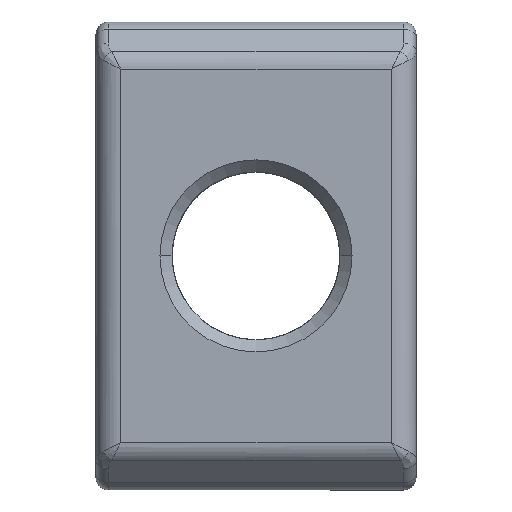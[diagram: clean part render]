
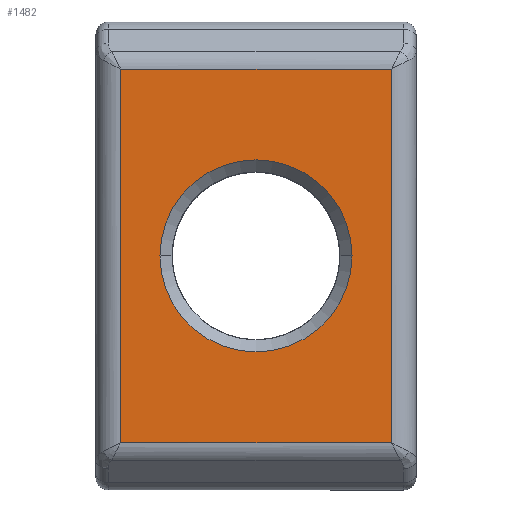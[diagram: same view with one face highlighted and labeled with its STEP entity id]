
A CAD part, top view. The second image highlights one B-rep face of the part: STEP entity #1482.
In plain terms, the highlighted planar face has unit normal (0, 0, 1).
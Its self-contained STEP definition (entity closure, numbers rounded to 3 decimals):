
#55 = DIRECTION ( 'NONE',  ( 1., 0., 0. ) ) ;
#56 = DIRECTION ( 'NONE',  ( 1., 0., 0. ) ) ;
#67 = CIRCLE ( 'NONE', #735, 3.9 ) ;
#107 = DIRECTION ( 'NONE',  ( 1., 0., 0. ) ) ;
#111 = ORIENTED_EDGE ( 'NONE', *, *, #1481, .F. ) ;
#130 = DIRECTION ( 'NONE',  ( 0., 0., -1. ) ) ;
#150 = ORIENTED_EDGE ( 'NONE', *, *, #1933, .T. ) ;
#151 = FACE_OUTER_BOUND ( 'NONE', #1407, .T. ) ;
#217 = VERTEX_POINT ( 'NONE', #1050 ) ;
#299 = CARTESIAN_POINT ( 'NONE',  ( -12.5, -0.5, 0. ) ) ;
#329 = CARTESIAN_POINT ( 'NONE',  ( -1., -1.914, 0. ) ) ;
#335 = DIRECTION ( 'NONE',  ( 1., 0., 0. ) ) ;
#340 = VECTOR ( 'NONE', #56, 1000. ) ;
#421 = DIRECTION ( 'NONE',  ( 0., 1., 0. ) ) ;
#438 = CARTESIAN_POINT ( 'NONE',  ( -10.4, -9.5, 0. ) ) ;
#491 = ORIENTED_EDGE ( 'NONE', *, *, #571, .F. ) ;
#498 = VERTEX_POINT ( 'NONE', #1752 ) ;
#511 = CARTESIAN_POINT ( 'NONE',  ( -13., -1.914, 0. ) ) ;
#525 = VERTEX_POINT ( 'NONE', #1708 ) ;
#571 = EDGE_CURVE ( 'NONE', #525, #1192, #1596, .T. ) ;
#585 = DIRECTION ( 'NONE',  ( 1., 0., 0. ) ) ;
#595 = CARTESIAN_POINT ( 'NONE',  ( -6.5, -9.5, 0. ) ) ;
#700 = AXIS2_PLACEMENT_3D ( 'NONE', #299, #1665, #335 ) ;
#703 = VECTOR ( 'NONE', #890, 1000. ) ;
#715 = CARTESIAN_POINT ( 'NONE',  ( -1., -19., 0. ) ) ;
#735 = AXIS2_PLACEMENT_3D ( 'NONE', #1422, #951, #55 ) ;
#850 = VECTOR ( 'NONE', #421, 1000. ) ;
#860 = VECTOR ( 'NONE', #107, 1000. ) ;
#890 = DIRECTION ( 'NONE',  ( 0., 1., 0. ) ) ;
#903 = VERTEX_POINT ( 'NONE', #1154 ) ;
#951 = DIRECTION ( 'NONE',  ( 0., 0., -1. ) ) ;
#1037 = CARTESIAN_POINT ( 'NONE',  ( -12., -19., 0. ) ) ;
#1042 = CIRCLE ( 'NONE', #1698, 3.9 ) ;
#1050 = CARTESIAN_POINT ( 'NONE',  ( -2.6, -9.5, 0. ) ) ;
#1128 = CARTESIAN_POINT ( 'NONE',  ( -13., -17.086, 0. ) ) ;
#1154 = CARTESIAN_POINT ( 'NONE',  ( -12., -17.086, 0. ) ) ;
#1192 = VERTEX_POINT ( 'NONE', #329 ) ;
#1264 = EDGE_CURVE ( 'NONE', #903, #498, #1400, .T. ) ;
#1279 = EDGE_LOOP ( 'NONE', ( #150, #1519 ) ) ;
#1341 = VERTEX_POINT ( 'NONE', #438 ) ;
#1400 = LINE ( 'NONE', #1128, #340 ) ;
#1407 = EDGE_LOOP ( 'NONE', ( #1709, #491, #111, #1566 ) ) ;
#1422 = CARTESIAN_POINT ( 'NONE',  ( -6.5, -9.5, 0. ) ) ;
#1436 = EDGE_CURVE ( 'NONE', #498, #1192, #1603, .T. ) ;
#1481 = EDGE_CURVE ( 'NONE', #903, #525, #1632, .T. ) ;
#1482 = ADVANCED_FACE ( 'NONE', ( #1494, #151 ), #1896, .T. ) ;
#1494 = FACE_BOUND ( 'NONE', #1279, .T. ) ;
#1519 = ORIENTED_EDGE ( 'NONE', *, *, #1803, .T. ) ;
#1566 = ORIENTED_EDGE ( 'NONE', *, *, #1264, .T. ) ;
#1596 = LINE ( 'NONE', #511, #860 ) ;
#1603 = LINE ( 'NONE', #715, #850 ) ;
#1632 = LINE ( 'NONE', #1037, #703 ) ;
#1665 = DIRECTION ( 'NONE',  ( 0., 0., 1. ) ) ;
#1698 = AXIS2_PLACEMENT_3D ( 'NONE', #595, #130, #585 ) ;
#1708 = CARTESIAN_POINT ( 'NONE',  ( -12., -1.914, 0. ) ) ;
#1709 = ORIENTED_EDGE ( 'NONE', *, *, #1436, .T. ) ;
#1752 = CARTESIAN_POINT ( 'NONE',  ( -1., -17.086, 0. ) ) ;
#1803 = EDGE_CURVE ( 'NONE', #1341, #217, #67, .T. ) ;
#1896 = PLANE ( 'NONE',  #700 ) ;
#1933 = EDGE_CURVE ( 'NONE', #217, #1341, #1042, .T. ) ;
